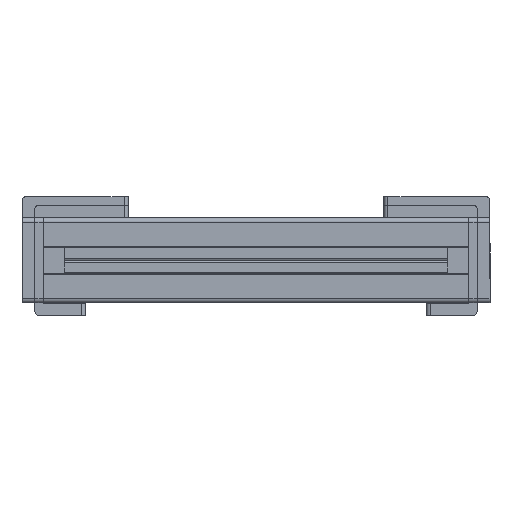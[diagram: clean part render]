
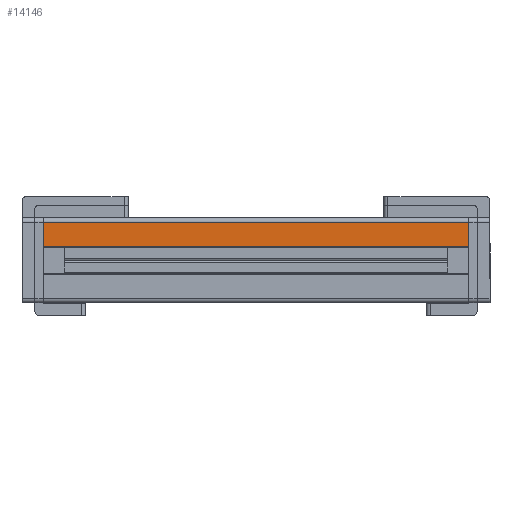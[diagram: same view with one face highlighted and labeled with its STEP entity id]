
A CAD part, left-side view. The second image highlights one B-rep face of the part: STEP entity #14146.
In plain terms, the highlighted planar face has unit normal (-1, 0, 0).
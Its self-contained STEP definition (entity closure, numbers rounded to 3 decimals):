
#1226=PLANE('',#15186);
#1687=FACE_OUTER_BOUND('',#2428,.T.);
#2428=EDGE_LOOP('',(#10281,#10282,#10283,#10284));
#3265=LINE('',#21469,#4630);
#3327=LINE('',#21613,#4692);
#3328=LINE('',#21617,#4693);
#3329=LINE('',#21618,#4694);
#4630=VECTOR('',#16976,10.);
#4692=VECTOR('',#17104,1.);
#4693=VECTOR('',#17109,1.);
#4694=VECTOR('',#17110,1.);
#6633=VERTEX_POINT('',#21466);
#6634=VERTEX_POINT('',#21468);
#6683=VERTEX_POINT('',#21612);
#6684=VERTEX_POINT('',#21616);
#8011=EDGE_CURVE('',#6633,#6634,#3265,.T.);
#8083=EDGE_CURVE('',#6634,#6683,#3327,.T.);
#8085=EDGE_CURVE('',#6633,#6684,#3328,.T.);
#8086=EDGE_CURVE('',#6684,#6683,#3329,.T.);
#10281=ORIENTED_EDGE('',*,*,#8085,.T.);
#10282=ORIENTED_EDGE('',*,*,#8086,.T.);
#10283=ORIENTED_EDGE('',*,*,#8083,.F.);
#10284=ORIENTED_EDGE('',*,*,#8011,.F.);
#14146=ADVANCED_FACE('',(#1687),#1226,.T.);
#15186=AXIS2_PLACEMENT_3D('',#21615,#17107,#17108);
#16976=DIRECTION('',(0.,0.,1.));
#17104=DIRECTION('',(0.,-1.,0.));
#17107=DIRECTION('center_axis',(-1.,0.,0.));
#17108=DIRECTION('ref_axis',(0.,0.,1.));
#17109=DIRECTION('',(0.,-1.,0.));
#17110=DIRECTION('',(0.,0.,1.));
#21466=CARTESIAN_POINT('',(-10.,90.,3.3));
#21468=CARTESIAN_POINT('',(-10.,90.,9.));
#21469=CARTESIAN_POINT('',(-10.,90.,3.3));
#21612=CARTESIAN_POINT('',(-10.,-10.,9.));
#21613=CARTESIAN_POINT('',(-10.,0.,9.));
#21615=CARTESIAN_POINT('Origin',(-10.,0.,3.3));
#21616=CARTESIAN_POINT('',(-10.,-10.,3.3));
#21617=CARTESIAN_POINT('',(-10.,0.,3.3));
#21618=CARTESIAN_POINT('',(-10.,-10.,3.3));
